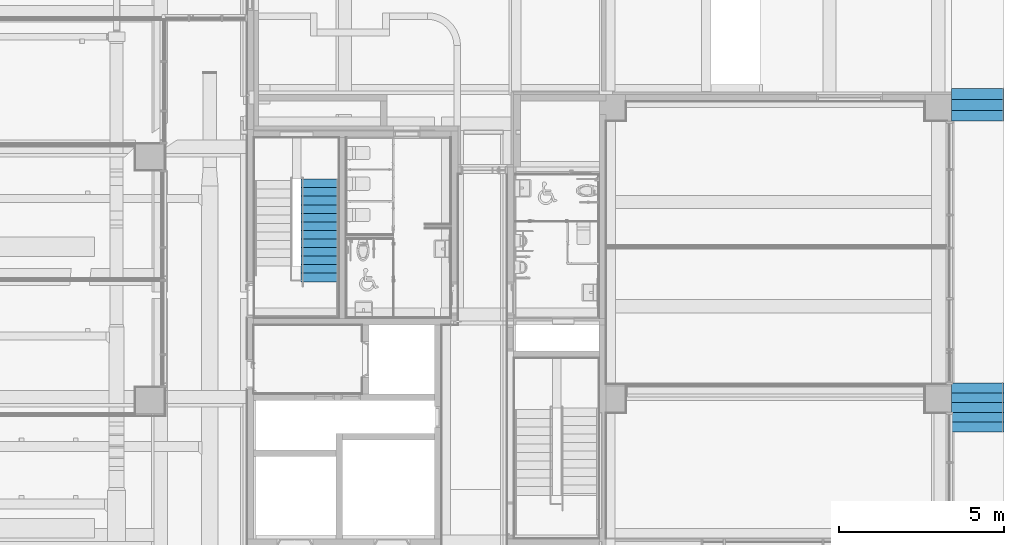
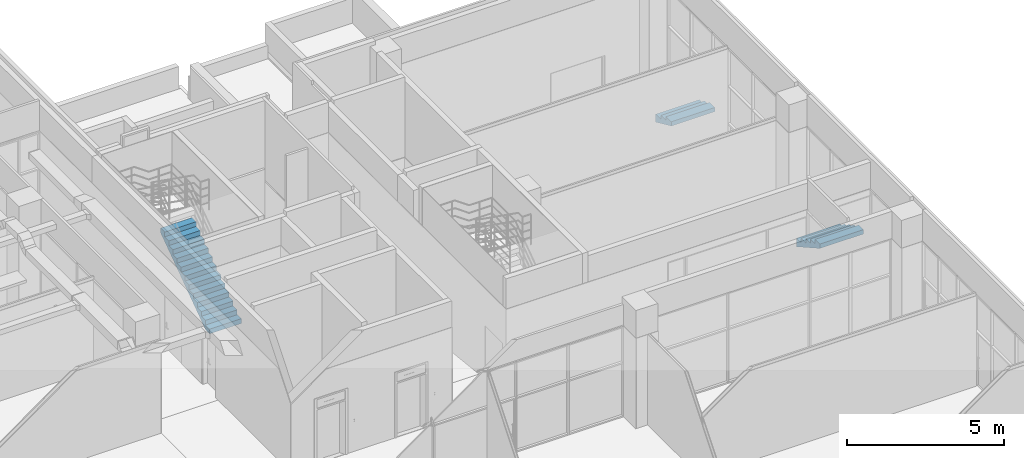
# One storey, part 69 of 100: 3 stair flights, 3 elements without a shape of their own.
"""IFC2X3 building model written with IfcOpenShell, lengths in millimetres."""

from ifc_helpers import new_model, entity, si_unit, converted_unit, derived_unit, direction, frame, origin, place, context, subcontext, project, spatial, faceted_brep, material, type_object, element, aggregate, save


model = new_model("IFC2X3")

# Units and contexts
model_context = context("Model", 3, precision=0.01, world=origin(), true_north=direction((6.123031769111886e-17, 1.0)))
body_context = subcontext(model_context, "Body", "Model", "MODEL_VIEW")
ifc_project = project(units=[si_unit("LENGTHUNIT", "METRE", prefix="MILLI"), si_unit("AREAUNIT", "SQUARE_METRE"), si_unit("VOLUMEUNIT", "CUBIC_METRE"), converted_unit("PLANEANGLEUNIT", "DEGREE", entity("IfcRatioMeasure", 0.017453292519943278), si_unit("PLANEANGLEUNIT", "RADIAN"), dimensions=[0, 0, 0, 0, 0, 0, 0]), si_unit("MASSUNIT", "GRAM", prefix="KILO"), derived_unit("MASSDENSITYUNIT", [(si_unit("MASSUNIT", "GRAM", prefix="KILO"), 1), (si_unit("LENGTHUNIT", "METRE"), -3)]), derived_unit("MOMENTOFINERTIAUNIT", [(si_unit("LENGTHUNIT", "METRE"), 4)]), si_unit("TIMEUNIT", "SECOND"), si_unit("FREQUENCYUNIT", "HERTZ"), si_unit("THERMODYNAMICTEMPERATUREUNIT", "DEGREE_CELSIUS"), derived_unit("THERMALTRANSMITTANCEUNIT", [(si_unit("MASSUNIT", "GRAM", prefix="KILO"), 1), (si_unit("THERMODYNAMICTEMPERATUREUNIT", "KELVIN"), -1), (si_unit("TIMEUNIT", "SECOND"), -3)]), derived_unit("VOLUMETRICFLOWRATEUNIT", [(si_unit("LENGTHUNIT", "METRE"), 3), (si_unit("TIMEUNIT", "SECOND"), -1)]), derived_unit("MASSFLOWRATEUNIT", [(si_unit("MASSUNIT", "GRAM", prefix="KILO"), 1), (si_unit("TIMEUNIT", "SECOND"), -1)]), derived_unit("ROTATIONALFREQUENCYUNIT", [(si_unit("TIMEUNIT", "SECOND"), -1)]), si_unit("ELECTRICCURRENTUNIT", "AMPERE"), si_unit("ELECTRICVOLTAGEUNIT", "VOLT"), si_unit("POWERUNIT", "WATT"), si_unit("FORCEUNIT", "NEWTON", prefix="KILO"), si_unit("ILLUMINANCEUNIT", "LUX"), si_unit("LUMINOUSFLUXUNIT", "LUMEN"), si_unit("LUMINOUSINTENSITYUNIT", "CANDELA"), derived_unit("USERDEFINED", [(si_unit("MASSUNIT", "GRAM", prefix="KILO"), -1), (si_unit("LENGTHUNIT", "METRE"), -2), (si_unit("TIMEUNIT", "SECOND"), 3), (si_unit("LUMINOUSFLUXUNIT", "LUMEN"), 1)]), derived_unit("SOUNDPOWERUNIT", [(si_unit("MASSUNIT", "GRAM", prefix="KILO"), 1), (si_unit("LENGTHUNIT", "METRE"), 2), (si_unit("TIMEUNIT", "SECOND"), -3)]), derived_unit("SOUNDPRESSUREUNIT", [(si_unit("MASSUNIT", "GRAM", prefix="KILO"), 1), (si_unit("LENGTHUNIT", "METRE"), -1), (si_unit("TIMEUNIT", "SECOND"), -2)]), derived_unit("LINEARVELOCITYUNIT", [(si_unit("LENGTHUNIT", "METRE"), 1), (si_unit("TIMEUNIT", "SECOND"), -1)]), si_unit("PRESSUREUNIT", "PASCAL"), derived_unit("USERDEFINED", [(si_unit("LENGTHUNIT", "METRE"), -2), (si_unit("MASSUNIT", "GRAM", prefix="KILO"), 1), (si_unit("TIMEUNIT", "SECOND"), -2)]), derived_unit("LINEARFORCEUNIT", [(si_unit("MASSUNIT", "GRAM", prefix="KILO"), 1), (si_unit("LENGTHUNIT", "METRE"), 1), (si_unit("TIMEUNIT", "SECOND"), -2), (si_unit("LENGTHUNIT", "METRE"), -1)]), derived_unit("PLANARFORCEUNIT", [(si_unit("MASSUNIT", "GRAM", prefix="KILO"), 1), (si_unit("LENGTHUNIT", "METRE"), 1), (si_unit("TIMEUNIT", "SECOND"), -2), (si_unit("LENGTHUNIT", "METRE"), -2)])], contexts=[model_context])

# Site, building, storey
site_placement = place(None, frame((-14167.972527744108, -657.2125860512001, 0.0)))
site = spatial("IfcSite", under=ifc_project, at=site_placement, Name="Default", CompositionType="ELEMENT")
building_placement = place(site_placement, origin())
building = spatial("IfcBuilding", under=site, at=building_placement, Name="Sample Building", CompositionType="ELEMENT")
storey_placement = place(building_placement, origin())
storey = spatial("IfcBuildingStorey", under=building, at=storey_placement, Name="지상 1층", CompositionType="ELEMENT", Elevation=0.0)

# Stair, stair flight
stair_1_placement = place(storey_placement, origin())
stair_1 = element("IfcStair", 1, at=stair_1_placement, inside=storey, Name="현장타설 계단:계단", ObjectType="현장타설 계단:ST111-철근콘크리트구조 계단 (직선형)", ShapeType="STRAIGHT_RUN_STAIR")
ifc_material = material(Name="KBIMS-콘크리트")
stair_flight_type_1 = type_object("IfcStairFlightType", Name="일체형 계단진행:일체형 계단진행 150mm_철근콘크리트", PredefinedType="STRAIGHT")
stair_flight_1_placement = place(stair_1_placement, frame((51467.963798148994, 19007.21230798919, 0.0)))
stair_flight_1 = element("IfcStairFlight", 2, at=stair_flight_1_placement, type_object=stair_flight_type_1, material=ifc_material, Name="현장타설 계단:계단:5367392 Run 1", ObjectType="일체형 계단진행:일체형 계단진행 150mm_철근콘크리트", NumberOfRiser=6, NumberOfTreads=5, RiserHeight=0.5468066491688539, TreadLength=0.9733158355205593, context=body_context, shape_type="Brep", body=[
    faceted_brep([(1600.0098092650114, 1186.6666666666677, -1333.3333333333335), (1600.0098092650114, 1483.3333333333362, -1333.3333333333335), (0.0, 1483.3333333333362, -1333.3333333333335), (0.0, 1186.666666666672, -1333.3333333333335), (1600.0098092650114, 1186.666666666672, -1505.383837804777), (1600.0098092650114, 1483.3333333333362, -1672.050504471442), (0.0, 1483.3333333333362, -1672.050504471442), (0.0, 1186.6666666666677, -1505.3838378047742), (1600.0098092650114, 890.0, -1166.6666666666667), (1600.0098092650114, 1186.666666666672, -1166.6666666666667), (0.0, 1186.666666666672, -1166.6666666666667), (0.0, 890.0, -1166.6666666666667), (1600.0098092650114, 890.0, -1338.7171711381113), (0.0, 890.0, -1338.7171711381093), (1600.0098092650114, 593.3333333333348, -1000.0), (1600.0098092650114, 890.0, -1000.0), (0.0, 890.0, -1000.0), (0.0, 593.3333333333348, -1000.0), (1600.0098092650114, 593.3333333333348, -1172.0505044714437), (0.0, 593.3333333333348, -1172.0505044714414), (1600.0098092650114, 296.6666666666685, -833.3333333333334), (1600.0098092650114, 593.3333333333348, -833.3333333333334), (0.0, 593.3333333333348, -833.3333333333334), (0.0, 296.6666666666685, -833.3333333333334), (1600.0098092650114, 296.6666666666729, -1005.3838378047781), (0.0, 296.66666666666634, -1005.3838378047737), (1600.0098092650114, 0.0, -666.6666666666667), (1600.0098092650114, 296.66666666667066, -666.6666666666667), (0.0, 296.66666666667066, -666.6666666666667), (0.0, 0.0, -666.6666666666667), (1600.0098092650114, 0.0, -838.7171711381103), (0.0, 0.0, -838.7171711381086)], [[[0, 1, 2, 3]], [[1, 0, 4, 5]], [[2, 1, 5, 6]], [[3, 2, 6, 7]], [[8, 9, 10, 11]], [[9, 8, 12, 4, 0]], [[0, 3, 10, 9]], [[11, 10, 3, 7, 13]], [[14, 15, 16, 17]], [[15, 14, 18, 12, 8]], [[8, 11, 16, 15]], [[17, 16, 11, 13, 19]], [[20, 21, 22, 23]], [[21, 20, 24, 18, 14]], [[14, 17, 22, 21]], [[23, 22, 17, 19, 25]], [[26, 27, 28, 29]], [[27, 26, 30, 24, 20]], [[20, 23, 28, 27]], [[29, 28, 23, 25, 31]], [[26, 29, 31, 30]], [[5, 4, 12, 18, 24, 30, 31, 25, 19, 13, 7, 6]]]),
])
aggregate(stair_1, [stair_flight_1])

stair_2_placement = place(storey_placement, origin())
stair_2 = element("IfcStair", 3, at=stair_2_placement, inside=storey, Name="현장타설 계단:계단", ObjectType="현장타설 계단:ST111-철근콘크리트구조 계단 (직선형)", ShapeType="STRAIGHT_RUN_STAIR")
stair_flight_type_2 = type_object("IfcStairFlightType", Name="일체형 계단진행:일체형 계단진행 150mm_철근콘크리트", PredefinedType="STRAIGHT")
stair_flight_2_placement = place(stair_2_placement, frame((51467.96379814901, 28447.21229514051, 0.0)))
stair_flight_2 = element("IfcStairFlight", 4, at=stair_flight_2_placement, type_object=stair_flight_type_2, material=ifc_material, Name="현장타설 계단:계단:5367428 Run 1", ObjectType="일체형 계단진행:일체형 계단진행 150mm_철근콘크리트", NumberOfRiser=4, NumberOfTreads=3, RiserHeight=0.4921259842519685, TreadLength=1.0826771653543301, context=body_context, shape_type="Brep", body=[
    faceted_brep([(1600.0086929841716, 660.0, -1950.0), (1600.0086929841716, 990.0, -1950.0), (0.0, 990.0, -1950.0), (0.0, 660.0, -1950.0), (1600.0086929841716, 660.0, -2114.768808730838), (1600.0086929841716, 990.0, -2264.768808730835), (0.0, 990.0, -2264.768808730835), (0.0, 660.0, -2114.768808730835), (1600.0086929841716, 330.0, -1800.0), (1600.0086929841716, 660.0, -1800.0), (0.0, 660.0, -1800.0), (0.0, 330.0, -1800.0), (1600.0086929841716, 330.0, -1964.7688087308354), (0.0, 330.0, -1964.7688087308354), (1600.0086929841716, 0.0, -1650.0), (1600.0086929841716, 330.0, -1650.0), (0.0, 330.0, -1650.0), (0.0, 0.0, -1650.0), (1600.0086929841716, 0.0, -1814.7688087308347), (0.0, 0.0, -1814.7688087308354)], [[[0, 1, 2, 3]], [[1, 0, 4, 5]], [[2, 1, 5, 6]], [[3, 2, 6, 7]], [[8, 9, 10, 11]], [[9, 8, 12, 4, 0]], [[0, 3, 10, 9]], [[11, 10, 3, 7, 13]], [[14, 15, 16, 17]], [[15, 14, 18, 12, 8]], [[8, 11, 16, 15]], [[17, 16, 11, 13, 19]], [[14, 17, 19, 18]], [[5, 4, 12, 18, 19, 13, 7, 6]]]),
])
aggregate(stair_2, [stair_flight_2])

stair_3_placement = place(storey_placement, origin())
stair_3 = element("IfcStair", 5, at=stair_3_placement, inside=storey, Name="현장타설 계단:계단", ObjectType="현장타설 계단:ST111-철근콘크리트구조 계단 (U형)", ShapeType="NOTDEFINED")
stair_flight_type_3 = type_object("IfcStairFlightType", Name="일체형 계단진행:일체형 계단진행 150mm_철근콘크리트", PredefinedType="STRAIGHT")
stair_flight_3_placement = place(stair_3_placement, frame((31707.98031454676, 23567.212307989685, 0.0)))
stair_flight_3 = element("IfcStairFlight", 6, at=stair_flight_3_placement, type_object=stair_flight_type_3, material=ifc_material, Name="현장타설 계단:계단:5949467 Run 1", ObjectType="일체형 계단진행:일체형 계단진행 150mm_철근콘크리트", NumberOfRiser=13, NumberOfTreads=12, RiserHeight=0.6056935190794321, TreadLength=0.8530183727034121, context=body_context, shape_type="Brep", body=[
    faceted_brep([(0.0, 260.0, 184.615384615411), (0.0, 0.0, 184.615384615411), (1159.9921765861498, 0.0, 184.615384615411), (1159.9921765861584, 260.0, 184.615384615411), (0.0, 260.0, 0.6476140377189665), (0.0, 259.08794356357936, 0.0), (0.0, 0.0, 0.0), (1159.9921765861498, 0.0, 0.0), (1159.9921765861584, 259.0879435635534, 0.0), (1159.9921765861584, 260.0, 0.6476140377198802), (0.0, 520.0, 369.2307692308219), (0.0, 260.0, 369.2307692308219), (1159.9921765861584, 260.0, 369.2307692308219), (1159.992176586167, 520.0, 369.2307692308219), (0.0, 520.0, 185.26299865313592), (1159.992176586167, 520.0, 185.26299865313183), (0.0, 780.0, 553.8461538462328), (0.0, 520.0, 553.8461538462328), (1159.992176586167, 520.0, 553.8461538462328), (1159.9921765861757, 780.0, 553.8461538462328), (0.0, 780.0, 369.8783832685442), (1159.9921765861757, 780.0, 369.8783832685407), (0.0, 1040.0, 738.4615384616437), (0.0, 780.0, 738.4615384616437), (1159.9921765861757, 780.0, 738.4615384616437), (1159.9921765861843, 1040.0, 738.4615384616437), (0.0, 1040.0, 554.4937678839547), (1159.9921765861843, 1040.0, 554.4937678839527), (0.0, 1300.0, 923.0769230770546), (0.0, 1040.0, 923.0769230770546), (1159.9921765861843, 1040.0, 923.0769230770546), (1159.992176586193, 1300.0, 923.0769230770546), (0.0, 1300.0, 739.1091524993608), (1159.992176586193, 1300.0, 739.1091524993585), (0.0, 1560.0, 1107.6923076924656), (0.0, 1300.0, 1107.6923076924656), (1159.9921765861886, 1300.0, 1107.6923076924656), (1159.9921765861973, 1560.0, 1107.6923076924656), (0.0, 1560.0, 923.7245371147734), (1159.9921765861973, 1560.0, 923.7245371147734), (0.0, 1820.0, 1292.3076923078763), (0.0, 1560.0, 1292.3076923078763), (1159.9921765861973, 1560.0, 1292.3076923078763), (1159.992176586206, 1820.0, 1292.3076923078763), (0.0, 1820.0, 1108.339921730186), (1159.992176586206, 1820.0, 1108.3399217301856), (0.0, 2080.0, 1476.9230769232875), (0.0, 1820.0, 1476.9230769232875), (1159.992176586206, 1820.0, 1476.9230769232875), (1159.9921765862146, 2080.0, 1476.9230769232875), (0.0, 2080.0, 1292.9553063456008), (1159.9921765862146, 2080.0, 1292.9553063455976), (0.0, 2340.0, 1661.5384615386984), (0.0, 2080.0, 1661.5384615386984), (1159.9921765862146, 2080.0, 1661.5384615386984), (1159.9921765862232, 2340.0, 1661.5384615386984), (0.0, 2340.0, 1477.570690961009), (1159.9921765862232, 2340.0, 1477.5706909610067), (0.0, 2600.0, 1846.1538461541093), (0.0, 2340.0, 1846.1538461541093), (1159.9921765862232, 2340.0, 1846.1538461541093), (1159.992176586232, 2600.0, 1846.1538461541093), (0.0, 2600.0, 1662.1860755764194), (1159.992176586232, 2600.0, 1662.1860755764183), (0.0, 2860.0, 2030.7692307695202), (0.0, 2600.0, 2030.7692307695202), (1159.992176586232, 2600.0, 2030.7692307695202), (1159.9921765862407, 2860.0, 2030.7692307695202), (0.0, 2860.0, 1846.80146019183), (1159.9921765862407, 2860.0, 1846.801460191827), (0.0, 3120.0, 2031.4168448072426), (1159.9921765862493, 3120.0, 2031.4168448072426), (0.0, 3120.0, 2215.3846153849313), (0.0, 2860.0, 2215.3846153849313), (1159.9921765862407, 2860.0, 2215.3846153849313), (1159.9921765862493, 3120.0, 2215.3846153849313)], [[[0, 1, 2, 3]], [[1, 0, 4, 5, 6]], [[2, 1, 6, 7]], [[3, 2, 7, 8, 9]], [[10, 11, 12, 13]], [[11, 10, 14, 4, 0]], [[0, 3, 12, 11]], [[13, 12, 3, 9, 15]], [[16, 17, 18, 19]], [[17, 16, 20, 14, 10]], [[10, 13, 18, 17]], [[19, 18, 13, 15, 21]], [[22, 23, 24, 25]], [[23, 22, 26, 20, 16]], [[16, 19, 24, 23]], [[25, 24, 19, 21, 27]], [[28, 29, 30, 31]], [[29, 28, 32, 26, 22]], [[22, 25, 30, 29]], [[31, 30, 25, 27, 33]], [[34, 35, 36, 37]], [[35, 34, 38, 32, 28]], [[28, 31, 36, 35]], [[37, 36, 31, 33, 39]], [[40, 41, 42, 43]], [[41, 40, 44, 38, 34]], [[34, 37, 42, 41]], [[43, 42, 37, 39, 45]], [[46, 47, 48, 49]], [[47, 46, 50, 44, 40]], [[40, 43, 48, 47]], [[49, 48, 43, 45, 51]], [[52, 53, 54, 55]], [[53, 52, 56, 50, 46]], [[46, 49, 54, 53]], [[55, 54, 49, 51, 57]], [[58, 59, 60, 61]], [[59, 58, 62, 56, 52]], [[52, 55, 60, 59]], [[61, 60, 55, 57, 63]], [[64, 65, 66, 67]], [[65, 64, 68, 62, 58]], [[58, 61, 66, 65]], [[67, 66, 61, 63, 69]], [[7, 6, 5, 8]], [[8, 5, 4, 14, 20, 26, 32, 38, 44, 50, 56, 62, 68, 70, 71, 69, 63, 57, 51, 45, 39, 33, 27, 21, 15, 9]], [[72, 73, 74, 75]], [[73, 72, 70, 68, 64]], [[64, 67, 74, 73]], [[75, 74, 67, 69, 71]], [[72, 75, 71, 70]]]),
])
aggregate(stair_3, [stair_flight_3])

save(model, "model.ifc")
